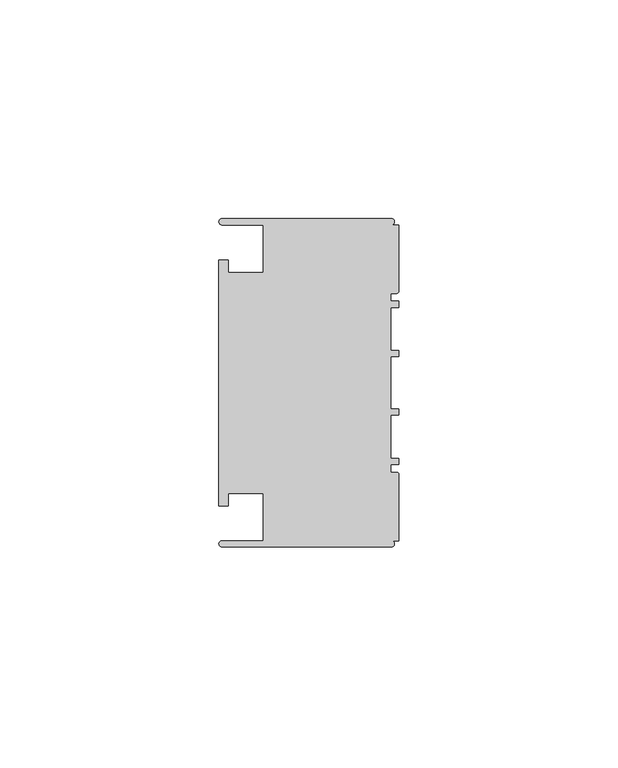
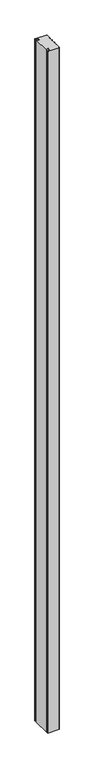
"""IFC4 building model written with IfcOpenShell, lengths in millimetres: member geometry, Прямоугольный импост : 3-AMG-2-Профиль 40Х75 Верх П."""

from ifc_helpers import new_model, si_unit, point, frame, frame_2d, origin, place, context, project, spatial, polyline, circle_curve, trimmed, segment, composite_curve, outline, extrude, source, transform, mapped, element, save


def member_f9fa1088(model_context):
    return source(origin(), model_context, "Body", "SweptSolid", [
        extrude(outline(composite_curve([segment(polyline([(-1.7, -37.5), (-40.4, -37.5)]), True, "CONTINUOUS"), segment(trimmed(circle_curve(frame_2d((-40.4, -36.8)), 0.7), [point((-40.4, -37.5))], [point((-40.4, -36.1))], False, "CARTESIAN"), True, "CONTINUOUS"), segment(polyline([(-40.4, -36.1), (-31.0, -36.1), (-31.0, -25.25), (-39.0, -25.25), (-39.0, -28.1), (-41.1, -28.1), (-41.1, 28.1), (-39.0, 28.1), (-39.0, 25.25), (-31.0, 25.25), (-31.0, 36.1), (-40.4, 36.1)]), True, "CONTINUOUS"), segment(trimmed(circle_curve(frame_2d((-40.4, 36.8)), 0.7), [point((-40.4, 36.1))], [point((-40.4, 37.5))], False, "CARTESIAN"), True, "CONTINUOUS"), segment(polyline([(-40.4, 37.5), (-1.7, 37.5)]), True, "CONTINUOUS"), segment(trimmed(circle_curve(frame_2d((-1.7, 36.8)), 0.7), [point((-1.7, 37.5))], [point((-1.7, 36.1))], False, "CARTESIAN"), True, "CONTINUOUS"), segment(polyline([(-1.7, 36.1), (0.0, 36.1), (0.0, 20.95)]), True, "CONTINUOUS"), segment(trimmed(circle_curve(frame_2d((-0.5, 20.95)), 0.5), [point((0.0, 20.95))], [point((-0.5, 20.45))], False, "CARTESIAN"), True, "CONTINUOUS"), segment(polyline([(-0.5, 20.45), (-1.8, 20.45), (-1.8, 18.65), (0.0, 18.65), (0.0, 17.25), (-1.8, 17.25), (-1.8, 7.4), (0.0, 7.4), (0.0, 6.0), (-1.8, 6.0), (-1.8, -6.0), (0.0, -6.0), (0.0, -7.4), (-1.8, -7.4), (-1.8, -17.25), (0.0, -17.25), (0.0, -18.65), (-1.8, -18.65), (-1.8, -20.45), (-0.5, -20.45)]), True, "CONTINUOUS"), segment(trimmed(circle_curve(frame_2d((-0.5, -20.95)), 0.5), [point((-0.5, -20.45))], [point((0.0, -20.95))], False, "CARTESIAN"), True, "CONTINUOUS"), segment(polyline([(0.0, -20.95), (0.0, -36.1), (-1.7, -36.1)]), True, "CONTINUOUS"), segment(trimmed(circle_curve(frame_2d((-1.7, -36.8)), 0.7), [point((-1.7, -36.1))], [point((-1.7, -37.5))], False, "CARTESIAN"), True, "CONTINUOUS")], self_intersect=False)), frame((0.0, 0.0, -2458.9), z_axis=(0.0, 0.0, 1.0), x_axis=(1.0, 0.0, 0.0)), (0.0, 0.0, 1.0), 2458.9),
    ])


if __name__ == "__main__":
    model = new_model("IFC4")
    model_context = context("Model", 3, world=origin())
    ifc_project = project(units=[si_unit("LENGTHUNIT", "METRE", prefix="MILLI")], contexts=[model_context])
    site = spatial("IfcSite", under=ifc_project)
    building = spatial("IfcBuilding", under=site)
    placement = place(None, origin())
    member_shape = member_f9fa1088(model_context)
    element("IfcMember", 1, ObjectType="Прямоугольный импост : 3-AMG-2-Профиль 40Х75 Верх П", at=placement, inside=building, context=model_context, shape_type="MappedRepresentation", body=[
        mapped(member_shape, transform((0.0, 0.0, 0.0), x_axis=(1.0, 0.0, 0.0), y_axis=(0.0, 1.0, 0.0), z_axis=(0.0, 0.0, 1.0))),
    ])
    save(model, "model.ifc")
